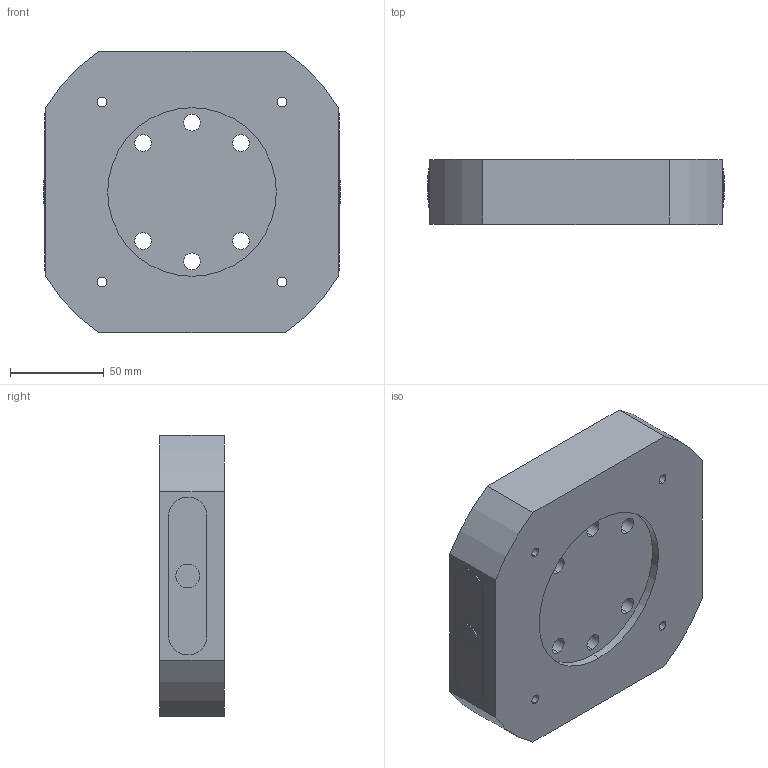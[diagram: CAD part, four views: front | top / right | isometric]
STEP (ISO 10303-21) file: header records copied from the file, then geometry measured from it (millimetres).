
FILE_DESCRIPTION (( 'STEP AP214' ), '1' );
FILE_NAME ('D_RL96A-DDR.STEP', '2020-03-11T17:55:13', ( '' ), ( '' ), 'SwSTEP 2.0', 'SolidWorks 2018', '' );
FILE_SCHEMA (( 'AUTOMOTIVE_DESIGN' ));
Length unit declared in the file: millimetre
Products named in the file (1): D_RL96A-DDR
Bounding box: 158 x 34.5 x 150 mm (x, y, z)
Volume: 573234.5 mm3; surface area: 104766.7 mm2
Topology: 1 solids, 1 shells, 193 faces, 472 edges, 312 vertices
Faces by surface type: cylinder 126, plane 63, cone 4
Entity records: 6880 total; most frequent: CARTESIAN_POINT 1498, DIRECTION 1080, ORIENTED_EDGE 936, EDGE_CURVE 468, AXIS2_PLACEMENT_3D 448, VERTEX_POINT 312, EDGE_LOOP 256, CIRCLE 254
